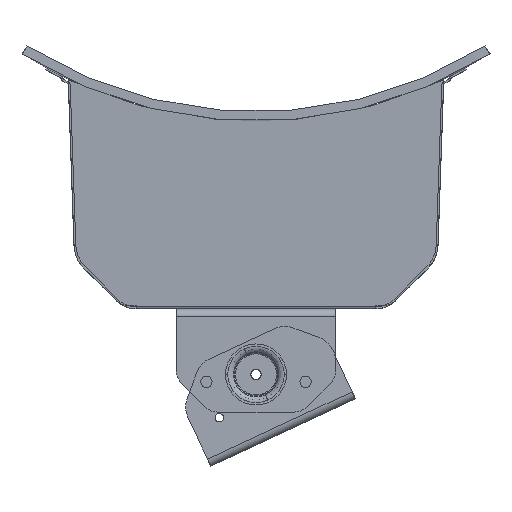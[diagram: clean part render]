
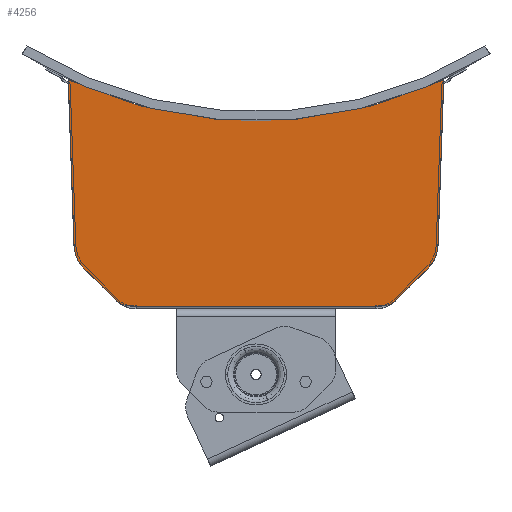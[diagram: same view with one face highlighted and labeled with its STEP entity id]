
A CAD part, left-side view. The second image highlights one B-rep face of the part: STEP entity #4256.
In plain terms, the highlighted planar face has unit normal (-0.999, 0, -0.035).
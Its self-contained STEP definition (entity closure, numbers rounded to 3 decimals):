
#4229 = EDGE_CURVE('',#4230,#4232,#4234,.T.);
#4230 = VERTEX_POINT('',#4231);
#4231 = CARTESIAN_POINT('',(-233.534,-63.787,
    0.965));
#4232 = VERTEX_POINT('',#4233);
#4233 = CARTESIAN_POINT('',(-233.552,-63.787,
    1.464));
#4234 = LINE('',#4235,#4236);
#4235 = CARTESIAN_POINT('',(-233.534,-63.787,
    0.965));
#4236 = VECTOR('',#4237,1.);
#4237 = DIRECTION('',(-0.035,0.,0.999));
#4256 = ADVANCED_FACE('',(#4257),#4367,.T.);
#4257 = FACE_BOUND('',#4258,.F.);
#4258 = EDGE_LOOP('',(#4259,#4270,#4278,#4287,#4293,#4294,#4302,#4310,
    #4318,#4327,#4335,#4344,#4352,#4361));
#4259 = ORIENTED_EDGE('',*,*,#4260,.F.);
#4260 = EDGE_CURVE('',#4261,#4263,#4265,.T.);
#4261 = VERTEX_POINT('',#4262);
#4262 = CARTESIAN_POINT('',(-234.256,-91.658,
    21.623));
#4263 = VERTEX_POINT('',#4264);
#4264 = CARTESIAN_POINT('',(-234.678,-96.919,
    33.715));
#4265 = CIRCLE('',#4266,18.);
#4266 = AXIS2_PLACEMENT_3D('',#4267,#4268,#4269);
#4267 = CARTESIAN_POINT('',(-234.7,-78.93,
    34.343));
#4268 = DIRECTION('',(-0.999,0.,-0.035));
#4269 = DIRECTION('',(0.025,-0.707,-0.707
    ));
#4270 = ORIENTED_EDGE('',*,*,#4271,.F.);
#4271 = EDGE_CURVE('',#4272,#4261,#4274,.T.);
#4272 = VERTEX_POINT('',#4273);
#4273 = CARTESIAN_POINT('',(-233.664,-74.709,
    4.684));
#4274 = LINE('',#4275,#4276);
#4275 = CARTESIAN_POINT('',(-233.664,-74.709,
    4.684));
#4276 = VECTOR('',#4277,1.);
#4277 = DIRECTION('',(-0.025,-0.707,0.707
    ));
#4278 = ORIENTED_EDGE('',*,*,#4279,.F.);
#4279 = EDGE_CURVE('',#4280,#4272,#4282,.T.);
#4280 = VERTEX_POINT('',#4281);
#4281 = CARTESIAN_POINT('',(-233.552,-66.93,
    1.464));
#4282 = CIRCLE('',#4283,11.);
#4283 = AXIS2_PLACEMENT_3D('',#4284,#4285,#4286);
#4284 = CARTESIAN_POINT('',(-233.936,-66.93,
    12.457));
#4285 = DIRECTION('',(-0.999,0.,-0.035));
#4286 = DIRECTION('',(0.035,0.,-0.999));
#4287 = ORIENTED_EDGE('',*,*,#4288,.F.);
#4288 = EDGE_CURVE('',#4232,#4280,#4289,.T.);
#4289 = LINE('',#4290,#4291);
#4290 = CARTESIAN_POINT('',(-233.552,-63.787,
    1.464));
#4291 = VECTOR('',#4292,1.);
#4292 = DIRECTION('',(0.,-1.,0.));
#4293 = ORIENTED_EDGE('',*,*,#4229,.F.);
#4294 = ORIENTED_EDGE('',*,*,#4295,.F.);
#4295 = EDGE_CURVE('',#4296,#4230,#4298,.T.);
#4296 = VERTEX_POINT('',#4297);
#4297 = CARTESIAN_POINT('',(-233.534,63.787,0.965
    ));
#4298 = LINE('',#4299,#4300);
#4299 = CARTESIAN_POINT('',(-233.534,63.787,0.965
    ));
#4300 = VECTOR('',#4301,1.);
#4301 = DIRECTION('',(0.,-1.,0.));
#4302 = ORIENTED_EDGE('',*,*,#4303,.F.);
#4303 = EDGE_CURVE('',#4304,#4296,#4306,.T.);
#4304 = VERTEX_POINT('',#4305);
#4305 = CARTESIAN_POINT('',(-233.552,63.787,1.464
    ));
#4306 = LINE('',#4307,#4308);
#4307 = CARTESIAN_POINT('',(-233.552,63.787,1.464
    ));
#4308 = VECTOR('',#4309,1.);
#4309 = DIRECTION('',(0.035,0.,-0.999));
#4310 = ORIENTED_EDGE('',*,*,#4311,.F.);
#4311 = EDGE_CURVE('',#4312,#4304,#4314,.T.);
#4312 = VERTEX_POINT('',#4313);
#4313 = CARTESIAN_POINT('',(-233.552,66.93,1.464
    ));
#4314 = LINE('',#4315,#4316);
#4315 = CARTESIAN_POINT('',(-233.552,66.93,1.464
    ));
#4316 = VECTOR('',#4317,1.);
#4317 = DIRECTION('',(0.,-1.,0.));
#4318 = ORIENTED_EDGE('',*,*,#4319,.F.);
#4319 = EDGE_CURVE('',#4320,#4312,#4322,.T.);
#4320 = VERTEX_POINT('',#4321);
#4321 = CARTESIAN_POINT('',(-233.664,74.709,
    4.684));
#4322 = CIRCLE('',#4323,11.);
#4323 = AXIS2_PLACEMENT_3D('',#4324,#4325,#4326);
#4324 = CARTESIAN_POINT('',(-233.936,66.93,12.457
    ));
#4325 = DIRECTION('',(-0.999,0.,
    -0.035));
#4326 = DIRECTION('',(0.025,0.707,-0.707)
  );
#4327 = ORIENTED_EDGE('',*,*,#4328,.F.);
#4328 = EDGE_CURVE('',#4329,#4320,#4331,.T.);
#4329 = VERTEX_POINT('',#4330);
#4330 = CARTESIAN_POINT('',(-234.256,91.658,
    21.623));
#4331 = LINE('',#4332,#4333);
#4332 = CARTESIAN_POINT('',(-234.256,91.658,
    21.623));
#4333 = VECTOR('',#4334,1.);
#4334 = DIRECTION('',(0.025,-0.707,-0.707
    ));
#4335 = ORIENTED_EDGE('',*,*,#4336,.F.);
#4336 = EDGE_CURVE('',#4337,#4329,#4339,.T.);
#4337 = VERTEX_POINT('',#4338);
#4338 = CARTESIAN_POINT('',(-234.678,96.919,33.715
    ));
#4339 = CIRCLE('',#4340,18.);
#4340 = AXIS2_PLACEMENT_3D('',#4341,#4342,#4343);
#4341 = CARTESIAN_POINT('',(-234.7,78.93,
    34.343));
#4342 = DIRECTION('',(-0.999,0.,-0.035));
#4343 = DIRECTION('',(0.001,0.999,
    -0.035));
#4344 = ORIENTED_EDGE('',*,*,#4345,.F.);
#4345 = EDGE_CURVE('',#4346,#4337,#4348,.T.);
#4346 = VERTEX_POINT('',#4347);
#4347 = CARTESIAN_POINT('',(-237.757,100.,121.891));
#4348 = LINE('',#4349,#4350);
#4349 = CARTESIAN_POINT('',(-237.757,100.,121.891));
#4350 = VECTOR('',#4351,1.);
#4351 = DIRECTION('',(0.035,-0.035,
    -0.999));
#4352 = ORIENTED_EDGE('',*,*,#4353,.F.);
#4353 = EDGE_CURVE('',#4354,#4346,#4356,.T.);
#4354 = VERTEX_POINT('',#4355);
#4355 = CARTESIAN_POINT('',(-237.757,-100.,121.891));
#4356 = CIRCLE('',#4357,238.273);
#4357 = AXIS2_PLACEMENT_3D('',#4358,#4359,#4360);
#4358 = CARTESIAN_POINT('',(-245.305,0.,338.032));
#4359 = DIRECTION('',(0.999,0.,
    0.035));
#4360 = DIRECTION('',(0.032,-0.42,-0.907
    ));
#4361 = ORIENTED_EDGE('',*,*,#4362,.F.);
#4362 = EDGE_CURVE('',#4263,#4354,#4363,.T.);
#4363 = LINE('',#4364,#4365);
#4364 = CARTESIAN_POINT('',(-234.678,-96.919,
    33.715));
#4365 = VECTOR('',#4366,1.);
#4366 = DIRECTION('',(-0.035,-0.035,
    0.999));
#4367 = PLANE('',#4368);
#4368 = AXIS2_PLACEMENT_3D('',#4369,#4370,#4371);
#4369 = CARTESIAN_POINT('',(-233.499,-33.475,
    -0.035));
#4370 = DIRECTION('',(-0.999,0.,-0.035));
#4371 = DIRECTION('',(0.,-1.,-0.));
